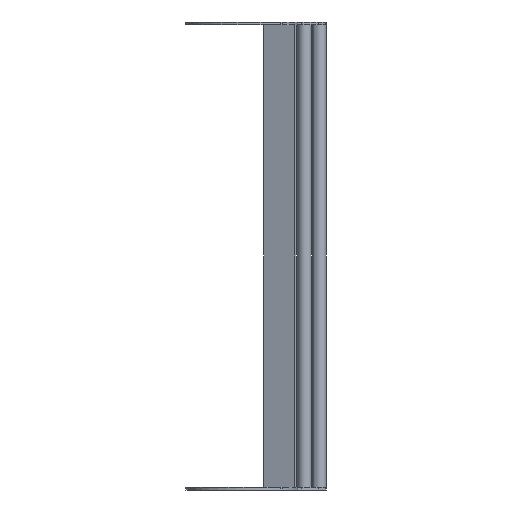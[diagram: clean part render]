
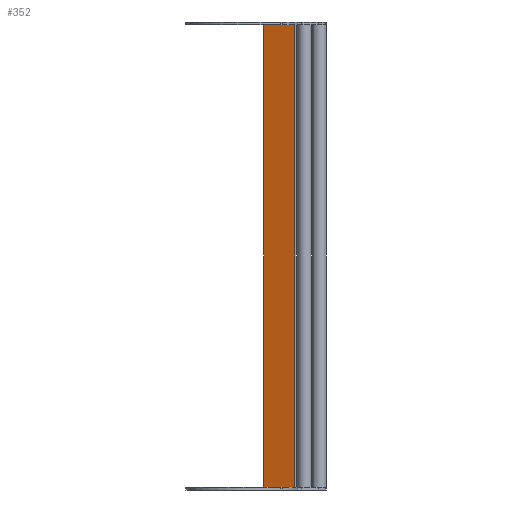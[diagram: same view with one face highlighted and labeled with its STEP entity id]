
A CAD part, front view. The second image highlights one B-rep face of the part: STEP entity #352.
In plain terms, the highlighted planar face has unit normal (-0.342, -0.94, 0).
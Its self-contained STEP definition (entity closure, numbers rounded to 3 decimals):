
#50 = CARTESIAN_POINT ( 'NONE',  ( 56.745, 61.65, -494. ) ) ;
#205 = AXIS2_PLACEMENT_3D ( 'NONE', #698, #3186, #2875 ) ;
#352 = ADVANCED_FACE ( 'NONE', ( #3823 ), #1312, .F. ) ;
#409 = VERTEX_POINT ( 'NONE', #50 ) ;
#582 = VECTOR ( 'NONE', #3542, 1000. ) ;
#587 = LINE ( 'NONE', #3703, #1983 ) ;
#612 = VECTOR ( 'NONE', #1782, 1000. ) ;
#690 = LINE ( 'NONE', #1059, #582 ) ;
#698 = CARTESIAN_POINT ( 'NONE',  ( 56.745, 61.65, -494. ) ) ;
#877 = VERTEX_POINT ( 'NONE', #1473 ) ;
#883 = EDGE_CURVE ( 'NONE', #877, #1422, #2335, .T. ) ;
#1059 = CARTESIAN_POINT ( 'NONE',  ( 56.745, 61.65, -494. ) ) ;
#1138 = CARTESIAN_POINT ( 'NONE',  ( 23.4, 73.787, -494. ) ) ;
#1190 = VERTEX_POINT ( 'NONE', #2551 ) ;
#1312 = PLANE ( 'NONE',  #205 ) ;
#1422 = VERTEX_POINT ( 'NONE', #3660 ) ;
#1465 = ORIENTED_EDGE ( 'NONE', *, *, #883, .F. ) ;
#1473 = CARTESIAN_POINT ( 'NONE',  ( 23.4, 73.787, -494. ) ) ;
#1782 = DIRECTION ( 'NONE',  ( 0., 0., 1. ) ) ;
#1829 = DIRECTION ( 'NONE',  ( 0., 0., 1. ) ) ;
#1983 = VECTOR ( 'NONE', #1829, 1000. ) ;
#2092 = EDGE_CURVE ( 'NONE', #409, #1190, #587, .T. ) ;
#2157 = VECTOR ( 'NONE', #3566, 1000. ) ;
#2335 = LINE ( 'NONE', #1138, #612 ) ;
#2425 = EDGE_CURVE ( 'NONE', #409, #877, #690, .T. ) ;
#2436 = EDGE_CURVE ( 'NONE', #1190, #1422, #3487, .T. ) ;
#2513 = ORIENTED_EDGE ( 'NONE', *, *, #2436, .T. ) ;
#2551 = CARTESIAN_POINT ( 'NONE',  ( 56.745, 61.65, 0. ) ) ;
#2875 = DIRECTION ( 'NONE',  ( -0.94, 0.342, 0. ) ) ;
#2957 = ORIENTED_EDGE ( 'NONE', *, *, #2425, .F. ) ;
#3097 = EDGE_LOOP ( 'NONE', ( #2513, #1465, #2957, #3752 ) ) ;
#3186 = DIRECTION ( 'NONE',  ( 0.342, 0.94, 0. ) ) ;
#3487 = LINE ( 'NONE', #3898, #2157 ) ;
#3542 = DIRECTION ( 'NONE',  ( -0.94, 0.342, 0. ) ) ;
#3566 = DIRECTION ( 'NONE',  ( -0.94, 0.342, 0. ) ) ;
#3660 = CARTESIAN_POINT ( 'NONE',  ( 23.4, 73.787, 0. ) ) ;
#3703 = CARTESIAN_POINT ( 'NONE',  ( 56.745, 61.65, -494. ) ) ;
#3752 = ORIENTED_EDGE ( 'NONE', *, *, #2092, .T. ) ;
#3823 = FACE_OUTER_BOUND ( 'NONE', #3097, .T. ) ;
#3898 = CARTESIAN_POINT ( 'NONE',  ( 56.745, 61.65, 0. ) ) ;
